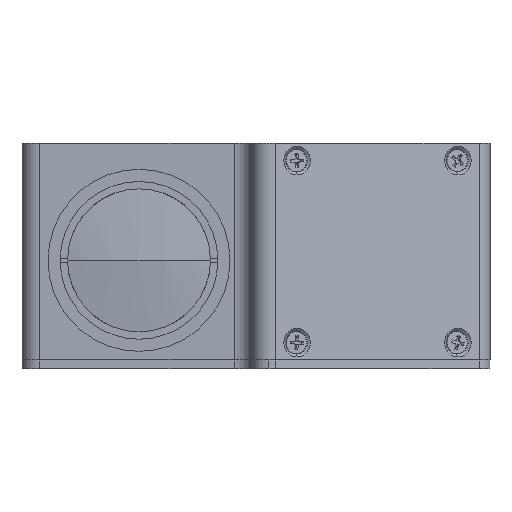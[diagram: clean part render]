
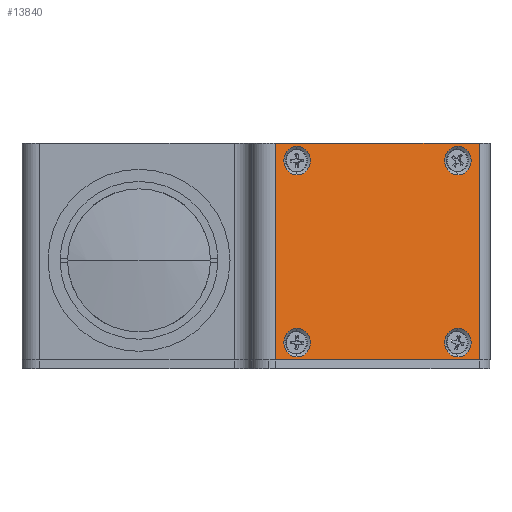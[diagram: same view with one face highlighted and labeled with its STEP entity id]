
A CAD part, left-side view. The second image highlights one B-rep face of the part: STEP entity #13840.
In plain terms, the highlighted planar face has unit normal (-0.927, -0.375, 0).
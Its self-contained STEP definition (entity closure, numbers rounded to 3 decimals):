
#61 = FACE_OUTER_BOUND ( 'NONE', #5433, .T. ) ;
#152 = DIRECTION ( 'NONE',  ( -0.927, -0.375, 0. ) ) ;
#277 = EDGE_CURVE ( 'NONE', #6205, #8898, #7841, .T. ) ;
#305 = EDGE_CURVE ( 'NONE', #6931, #13028, #7501, .T. ) ;
#362 = CARTESIAN_POINT ( 'NONE',  ( 25.939, -36.495, -19. ) ) ;
#491 = DIRECTION ( 'NONE',  ( 0.375, -0.927, 0. ) ) ;
#536 = EDGE_LOOP ( 'NONE', ( #9544, #7519 ) ) ;
#636 = CARTESIAN_POINT ( 'NONE',  ( 23.928, -31.516, 2. ) ) ;
#1043 = DIRECTION ( 'NONE',  ( -0.927, -0.375, 0. ) ) ;
#1056 = AXIS2_PLACEMENT_3D ( 'NONE', #8527, #1634, #9703 ) ;
#1436 = CARTESIAN_POINT ( 'NONE',  ( 40.923, -73.583, 26.3 ) ) ;
#1450 = EDGE_CURVE ( 'NONE', #13750, #11074, #6023, .T. ) ;
#1534 = DIRECTION ( 'NONE',  ( 0., 0., 1. ) ) ;
#1634 = DIRECTION ( 'NONE',  ( -0.927, -0.375, 0. ) ) ;
#1640 = CARTESIAN_POINT ( 'NONE',  ( 45.419, -84.709, 27. ) ) ;
#1707 = DIRECTION ( 'NONE',  ( -0.927, -0.375, 0. ) ) ;
#1724 = EDGE_CURVE ( 'NONE', #13028, #6931, #8885, .T. ) ;
#1812 = AXIS2_PLACEMENT_3D ( 'NONE', #11609, #13901, #7037 ) ;
#1843 = CARTESIAN_POINT ( 'NONE',  ( 40.923, -73.583, 19.7 ) ) ;
#1921 = EDGE_CURVE ( 'NONE', #9622, #3505, #9050, .T. ) ;
#1948 = CARTESIAN_POINT ( 'NONE',  ( 42.91, -78.498, 2. ) ) ;
#2221 = ORIENTED_EDGE ( 'NONE', *, *, #2373, .F. ) ;
#2310 = EDGE_CURVE ( 'NONE', #13750, #2613, #11948, .T. ) ;
#2373 = EDGE_CURVE ( 'NONE', #13922, #13557, #11247, .T. ) ;
#2379 = CARTESIAN_POINT ( 'NONE',  ( 40.923, -73.583, 23. ) ) ;
#2508 = EDGE_CURVE ( 'NONE', #8008, #11074, #12116, .T. ) ;
#2563 = EDGE_CURVE ( 'NONE', #8008, #2613, #14443, .T. ) ;
#2613 = VERTEX_POINT ( 'NONE', #7632 ) ;
#2707 = CARTESIAN_POINT ( 'NONE',  ( 25.939, -36.495, 19.7 ) ) ;
#2787 = VECTOR ( 'NONE', #13683, 1000. ) ;
#3022 = ORIENTED_EDGE ( 'NONE', *, *, #2310, .F. ) ;
#3154 = FACE_BOUND ( 'NONE', #536, .T. ) ;
#3471 = CARTESIAN_POINT ( 'NONE',  ( 25.939, -36.495, 26.3 ) ) ;
#3505 = VERTEX_POINT ( 'NONE', #8368 ) ;
#3548 = DIRECTION ( 'NONE',  ( 0., 0., 1. ) ) ;
#3756 = ORIENTED_EDGE ( 'NONE', *, *, #1450, .T. ) ;
#3802 = ORIENTED_EDGE ( 'NONE', *, *, #14203, .F. ) ;
#4236 = AXIS2_PLACEMENT_3D ( 'NONE', #8601, #1707, #9760 ) ;
#4322 = CARTESIAN_POINT ( 'NONE',  ( 25.939, -36.495, -15.7 ) ) ;
#4345 = EDGE_LOOP ( 'NONE', ( #5256, #12428 ) ) ;
#4495 = DIRECTION ( 'NONE',  ( -0.927, -0.375, 0. ) ) ;
#4507 = CARTESIAN_POINT ( 'NONE',  ( 45.419, -84.709, -23. ) ) ;
#4540 = CARTESIAN_POINT ( 'NONE',  ( 25.939, -36.495, 23. ) ) ;
#5076 = CARTESIAN_POINT ( 'NONE',  ( 40.923, -73.583, -15.7 ) ) ;
#5256 = ORIENTED_EDGE ( 'NONE', *, *, #277, .F. ) ;
#5433 = EDGE_LOOP ( 'NONE', ( #3022, #3756, #13574, #12474 ) ) ;
#5529 = ORIENTED_EDGE ( 'NONE', *, *, #1921, .F. ) ;
#5712 = DIRECTION ( 'NONE',  ( 0., 0., 1. ) ) ;
#5871 = CIRCLE ( 'NONE', #4236, 3.3 ) ;
#6023 = LINE ( 'NONE', #1948, #14802 ) ;
#6205 = VERTEX_POINT ( 'NONE', #5076 ) ;
#6566 = FACE_BOUND ( 'NONE', #4345, .T. ) ;
#6588 = AXIS2_PLACEMENT_3D ( 'NONE', #4540, #12567, #5712 ) ;
#6700 = AXIS2_PLACEMENT_3D ( 'NONE', #11373, #4495, #12524 ) ;
#6839 = CARTESIAN_POINT ( 'NONE',  ( 23.928, -31.516, 27. ) ) ;
#6931 = VERTEX_POINT ( 'NONE', #2707 ) ;
#7037 = DIRECTION ( 'NONE',  ( 0., 0., 1. ) ) ;
#7069 = CARTESIAN_POINT ( 'NONE',  ( 25.939, -36.495, 23. ) ) ;
#7501 = CIRCLE ( 'NONE', #6588, 3.3 ) ;
#7519 = ORIENTED_EDGE ( 'NONE', *, *, #305, .F. ) ;
#7632 = CARTESIAN_POINT ( 'NONE',  ( 23.928, -31.516, -23. ) ) ;
#7841 = CIRCLE ( 'NONE', #6700, 3.3 ) ;
#7842 = VECTOR ( 'NONE', #13295, 1000. ) ;
#7924 = CARTESIAN_POINT ( 'NONE',  ( 40.923, -73.583, 23. ) ) ;
#8008 = VERTEX_POINT ( 'NONE', #6839 ) ;
#8238 = DIRECTION ( 'NONE',  ( 0., 0., 1. ) ) ;
#8368 = CARTESIAN_POINT ( 'NONE',  ( 25.939, -36.495, -22.3 ) ) ;
#8432 = DIRECTION ( 'NONE',  ( -0.927, -0.375, 0. ) ) ;
#8457 = ORIENTED_EDGE ( 'NONE', *, *, #13460, .F. ) ;
#8527 = CARTESIAN_POINT ( 'NONE',  ( 40.923, -73.583, -19. ) ) ;
#8601 = CARTESIAN_POINT ( 'NONE',  ( 25.939, -36.495, -19. ) ) ;
#8788 = DIRECTION ( 'NONE',  ( 0., 0., 1. ) ) ;
#8871 = EDGE_LOOP ( 'NONE', ( #2221, #3802 ) ) ;
#8885 = CIRCLE ( 'NONE', #12493, 3.3 ) ;
#8898 = VERTEX_POINT ( 'NONE', #9437 ) ;
#9050 = CIRCLE ( 'NONE', #11192, 3.3 ) ;
#9069 = DIRECTION ( 'NONE',  ( 0., 0., 1. ) ) ;
#9144 = CARTESIAN_POINT ( 'NONE',  ( 42.91, -78.498, -23. ) ) ;
#9169 = EDGE_LOOP ( 'NONE', ( #5529, #8457 ) ) ;
#9255 = FACE_BOUND ( 'NONE', #8871, .T. ) ;
#9437 = CARTESIAN_POINT ( 'NONE',  ( 40.923, -73.583, -22.3 ) ) ;
#9447 = AXIS2_PLACEMENT_3D ( 'NONE', #2379, #10442, #3548 ) ;
#9544 = ORIENTED_EDGE ( 'NONE', *, *, #1724, .F. ) ;
#9622 = VERTEX_POINT ( 'NONE', #4322 ) ;
#9703 = DIRECTION ( 'NONE',  ( 0., 0., 1. ) ) ;
#9760 = DIRECTION ( 'NONE',  ( 0., 0., 1. ) ) ;
#9805 = CIRCLE ( 'NONE', #1056, 3.3 ) ;
#10442 = DIRECTION ( 'NONE',  ( -0.927, -0.375, 0. ) ) ;
#11074 = VERTEX_POINT ( 'NONE', #14872 ) ;
#11192 = AXIS2_PLACEMENT_3D ( 'NONE', #362, #8432, #1534 ) ;
#11247 = CIRCLE ( 'NONE', #9447, 3.3 ) ;
#11373 = CARTESIAN_POINT ( 'NONE',  ( 40.923, -73.583, -19. ) ) ;
#11609 = CARTESIAN_POINT ( 'NONE',  ( 33.562, -55.363, 2. ) ) ;
#11934 = CIRCLE ( 'NONE', #14022, 3.3 ) ;
#11948 = LINE ( 'NONE', #4507, #2787 ) ;
#12116 = LINE ( 'NONE', #1640, #14796 ) ;
#12304 = FACE_BOUND ( 'NONE', #9169, .T. ) ;
#12428 = ORIENTED_EDGE ( 'NONE', *, *, #14011, .F. ) ;
#12474 = ORIENTED_EDGE ( 'NONE', *, *, #2563, .T. ) ;
#12493 = AXIS2_PLACEMENT_3D ( 'NONE', #7069, #152, #8238 ) ;
#12524 = DIRECTION ( 'NONE',  ( 0., 0., 1. ) ) ;
#12567 = DIRECTION ( 'NONE',  ( -0.927, -0.375, 0. ) ) ;
#12751 = PLANE ( 'NONE',  #1812 ) ;
#13028 = VERTEX_POINT ( 'NONE', #3471 ) ;
#13295 = DIRECTION ( 'NONE',  ( 0., 0., -1. ) ) ;
#13460 = EDGE_CURVE ( 'NONE', #3505, #9622, #5871, .T. ) ;
#13557 = VERTEX_POINT ( 'NONE', #1843 ) ;
#13574 = ORIENTED_EDGE ( 'NONE', *, *, #2508, .F. ) ;
#13683 = DIRECTION ( 'NONE',  ( -0.375, 0.927, 0. ) ) ;
#13750 = VERTEX_POINT ( 'NONE', #9144 ) ;
#13840 = ADVANCED_FACE ( 'NONE', ( #9255, #6566, #12304, #3154, #61 ), #12751, .T. ) ;
#13901 = DIRECTION ( 'NONE',  ( -0.927, -0.375, 0. ) ) ;
#13922 = VERTEX_POINT ( 'NONE', #1436 ) ;
#14011 = EDGE_CURVE ( 'NONE', #8898, #6205, #9805, .T. ) ;
#14022 = AXIS2_PLACEMENT_3D ( 'NONE', #7924, #1043, #9069 ) ;
#14203 = EDGE_CURVE ( 'NONE', #13557, #13922, #11934, .T. ) ;
#14443 = LINE ( 'NONE', #636, #7842 ) ;
#14796 = VECTOR ( 'NONE', #491, 1000. ) ;
#14802 = VECTOR ( 'NONE', #8788, 1000. ) ;
#14872 = CARTESIAN_POINT ( 'NONE',  ( 42.91, -78.498, 27. ) ) ;
